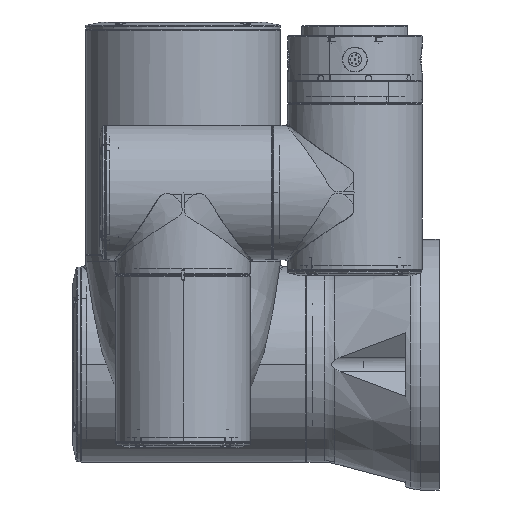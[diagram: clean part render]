
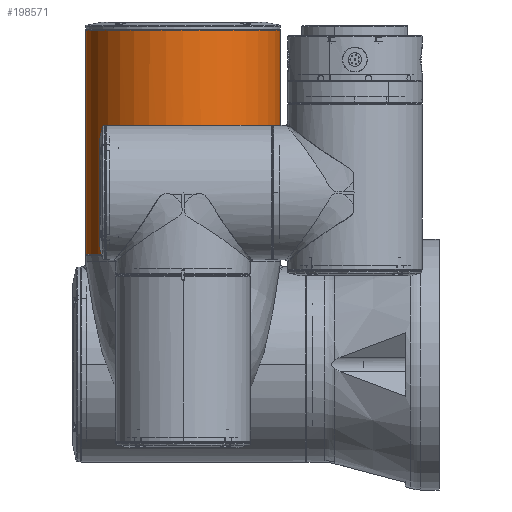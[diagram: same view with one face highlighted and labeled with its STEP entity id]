
A CAD part, left-side view. The second image highlights one B-rep face of the part: STEP entity #198571.
In plain terms, the highlighted cylindrical face has radius 58 mm (diameter 116 mm), a partial arc.
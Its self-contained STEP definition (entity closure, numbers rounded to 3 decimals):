
#4491 = DIRECTION ( 'NONE',  ( 0., 1., 0. ) ) ;
#4576 = EDGE_CURVE ( 'NONE', #153637, #17294, #12594, .T. ) ;
#6790 = EDGE_CURVE ( 'NONE', #77002, #78740, #55738, .T. ) ;
#8119 = DIRECTION ( 'NONE',  ( 0., 1., 0. ) ) ;
#8817 =( BOUNDED_CURVE ( )  B_SPLINE_CURVE ( 3, ( #193516, #102861, #54874, #54214 ),
 .UNSPECIFIED., .F., .F. ) 
 B_SPLINE_CURVE_WITH_KNOTS ( ( 4, 4 ),
 ( 1.555, 1.556 ),
 .UNSPECIFIED. ) 
 CURVE ( )  GEOMETRIC_REPRESENTATION_ITEM ( )  RATIONAL_B_SPLINE_CURVE ( ( 1., 1., 1., 1. ) ) 
 REPRESENTATION_ITEM ( '' )  );
#9315 = DIRECTION ( 'NONE',  ( 0., 0., -1. ) ) ;
#10057 = CARTESIAN_POINT ( 'NONE',  ( -425., 152., 65.503 ) ) ;
#12594 = CIRCLE ( 'NONE', #84206, 58. ) ;
#13148 = VERTEX_POINT ( 'NONE', #133588 ) ;
#13484 = VECTOR ( 'NONE', #9315, 1000. ) ;
#17294 = VERTEX_POINT ( 'NONE', #100269 ) ;
#17658 = CARTESIAN_POINT ( 'NONE',  ( -482.995, 152.75, 67.691 ) ) ;
#18465 = VECTOR ( 'NONE', #199246, 1000. ) ;
#18975 = CARTESIAN_POINT ( 'NONE',  ( -482.996, 152.69, 67.78 ) ) ;
#23517 = VERTEX_POINT ( 'NONE', #169638 ) ;
#24886 = DIRECTION ( 'NONE',  ( 0., 0., 1. ) ) ;
#25555 = DIRECTION ( 'NONE',  ( 0., 1., 0. ) ) ;
#28038 = CARTESIAN_POINT ( 'NONE',  ( -425., 210., 199. ) ) ;
#28160 = EDGE_CURVE ( 'NONE', #165917, #30991, #8817, .T. ) ;
#30991 = VERTEX_POINT ( 'NONE', #167510 ) ;
#33019 =( BOUNDED_CURVE ( )  B_SPLINE_CURVE ( 3, ( #85421, #134073, #196912, #182026 ),
 .UNSPECIFIED., .F., .F. ) 
 B_SPLINE_CURVE_WITH_KNOTS ( ( 4, 4 ),
 ( 4.727, 4.728 ),
 .UNSPECIFIED. ) 
 CURVE ( )  GEOMETRIC_REPRESENTATION_ITEM ( )  RATIONAL_B_SPLINE_CURVE ( ( 1., 1., 1., 1. ) ) 
 REPRESENTATION_ITEM ( '' )  );
#35208 = AXIS2_PLACEMENT_3D ( 'NONE', #106380, #105039, #45478 ) ;
#36280 = ORIENTED_EDGE ( 'NONE', *, *, #129819, .T. ) ;
#40734 = AXIS2_PLACEMENT_3D ( 'NONE', #10057, #24886, #25555 ) ;
#41785 = CARTESIAN_POINT ( 'NONE',  ( -482.993, 152.895, 65.503 ) ) ;
#45478 = DIRECTION ( 'NONE',  ( 0., 1., 0. ) ) ;
#47176 = VECTOR ( 'NONE', #163480, 1000. ) ;
#47928 = CARTESIAN_POINT ( 'NONE',  ( -482.998, 151.558, 67.994 ) ) ;
#49250 = CARTESIAN_POINT ( 'NONE',  ( -483., 151.873, 68.1 ) ) ;
#49476 = CARTESIAN_POINT ( 'NONE',  ( -483., 152.239, 68.1 ) ) ;
#50144 = CARTESIAN_POINT ( 'NONE',  ( -482.994, 152.839, 67.486 ) ) ;
#50803 = CARTESIAN_POINT ( 'NONE',  ( -482.994, 152.862, 67.38 ) ) ;
#51521 = CARTESIAN_POINT ( 'NONE',  ( -482.994, 151.136, 67.269 ) ) ;
#51767 = DIRECTION ( 'NONE',  ( 0., 0., 1. ) ) ;
#52979 = ORIENTED_EDGE ( 'NONE', *, *, #88678, .F. ) ;
#54214 = CARTESIAN_POINT ( 'NONE',  ( -482.994, 152.864, 67.269 ) ) ;
#54664 = LINE ( 'NONE', #76224, #13484 ) ;
#54874 = CARTESIAN_POINT ( 'NONE',  ( -482.993, 152.875, 66.68 ) ) ;
#55738 = CIRCLE ( 'NONE', #147905, 58. ) ;
#62668 = ORIENTED_EDGE ( 'NONE', *, *, #187290, .T. ) ;
#65382 = AXIS2_PLACEMENT_3D ( 'NONE', #179192, #69606, #8119 ) ;
#69606 = DIRECTION ( 'NONE',  ( 0., 0., -1. ) ) ;
#73395 = CARTESIAN_POINT ( 'NONE',  ( -482.993, 151.105, 65.503 ) ) ;
#76224 = CARTESIAN_POINT ( 'NONE',  ( -425., 94., 199. ) ) ;
#76843 = CARTESIAN_POINT ( 'NONE',  ( -425., 94., 199. ) ) ;
#77002 = VERTEX_POINT ( 'NONE', #199738 ) ;
#78531 = EDGE_CURVE ( 'NONE', #13148, #17294, #54664, .T. ) ;
#78580 = CARTESIAN_POINT ( 'NONE',  ( -483., 152.017, 68.1 ) ) ;
#78740 = VERTEX_POINT ( 'NONE', #166669 ) ;
#79822 = ORIENTED_EDGE ( 'NONE', *, *, #78531, .F. ) ;
#80218 = EDGE_CURVE ( 'NONE', #161932, #104250, #83452, .T. ) ;
#80348 = CARTESIAN_POINT ( 'NONE',  ( -482.995, 151.248, 67.689 ) ) ;
#83452 = CIRCLE ( 'NONE', #65382, 58. ) ;
#83729 = CARTESIAN_POINT ( 'NONE',  ( -425., 210., 199. ) ) ;
#84206 = AXIS2_PLACEMENT_3D ( 'NONE', #144449, #51767, #4491 ) ;
#85421 = CARTESIAN_POINT ( 'NONE',  ( -482.994, 151.136, 67.269 ) ) ;
#85609 = ORIENTED_EDGE ( 'NONE', *, *, #4576, .T. ) ;
#86036 = FACE_OUTER_BOUND ( 'NONE', #177239, .T. ) ;
#86438 = ORIENTED_EDGE ( 'NONE', *, *, #121990, .T. ) ;
#88678 = EDGE_CURVE ( 'NONE', #161932, #13148, #190273, .T. ) ;
#89538 = EDGE_CURVE ( 'NONE', #161406, #165917, #137864, .T. ) ;
#90308 = DIRECTION ( 'NONE',  ( 0., 0., -1. ) ) ;
#100269 = CARTESIAN_POINT ( 'NONE',  ( -425., 94., 65.503 ) ) ;
#102861 = CARTESIAN_POINT ( 'NONE',  ( -482.993, 152.885, 66.092 ) ) ;
#104250 = VERTEX_POINT ( 'NONE', #198092 ) ;
#104632 = B_SPLINE_CURVE_WITH_KNOTS ( 'NONE', 3,
 ( #156832, #49250, #157494, #47928, #127055, #110860, #80348, #109504, #188569, #155487 ),
 .UNSPECIFIED., .F., .F.,
 ( 4, 2, 2, 2, 4 ),
 ( 0., 0.25, 0.5, 0.75, 1. ),
 .UNSPECIFIED. ) ;
#105039 = DIRECTION ( 'NONE',  ( 0., 0., -1. ) ) ;
#106312 = VERTEX_POINT ( 'NONE', #51521 ) ;
#106380 = CARTESIAN_POINT ( 'NONE',  ( -425., 152., 199. ) ) ;
#109504 = CARTESIAN_POINT ( 'NONE',  ( -482.994, 151.161, 67.487 ) ) ;
#110860 = CARTESIAN_POINT ( 'NONE',  ( -482.996, 151.31, 67.78 ) ) ;
#115851 = LINE ( 'NONE', #28038, #130396 ) ;
#116530 = ORIENTED_EDGE ( 'NONE', *, *, #28160, .T. ) ;
#117262 = DIRECTION ( 'NONE',  ( 0., 0., 1. ) ) ;
#121536 = B_SPLINE_CURVE_WITH_KNOTS ( 'NONE', 3,
 ( #125928, #50803, #50144, #17658, #18975, #171250, #49476, #78580 ),
 .UNSPECIFIED., .F., .F.,
 ( 4, 2, 2, 4 ),
 ( 0., 0.25, 0.5, 1. ),
 .UNSPECIFIED. ) ;
#121990 = EDGE_CURVE ( 'NONE', #106312, #153637, #33019, .T. ) ;
#122172 = ORIENTED_EDGE ( 'NONE', *, *, #89538, .T. ) ;
#125928 = CARTESIAN_POINT ( 'NONE',  ( -482.994, 152.864, 67.269 ) ) ;
#127055 = CARTESIAN_POINT ( 'NONE',  ( -482.998, 151.468, 67.935 ) ) ;
#127878 = ORIENTED_EDGE ( 'NONE', *, *, #6790, .T. ) ;
#129819 = EDGE_CURVE ( 'NONE', #78740, #106312, #104632, .T. ) ;
#130396 = VECTOR ( 'NONE', #90308, 1000. ) ;
#132123 = EDGE_CURVE ( 'NONE', #30991, #77002, #121536, .T. ) ;
#133588 = CARTESIAN_POINT ( 'NONE',  ( -425., 94., 138. ) ) ;
#134073 = CARTESIAN_POINT ( 'NONE',  ( -482.993, 151.125, 66.68 ) ) ;
#137864 = CIRCLE ( 'NONE', #40734, 58. ) ;
#144449 = CARTESIAN_POINT ( 'NONE',  ( -425., 152., 65.503 ) ) ;
#147708 = CARTESIAN_POINT ( 'NONE',  ( -425., 152., 68.1 ) ) ;
#147905 = AXIS2_PLACEMENT_3D ( 'NONE', #147708, #117262, #149697 ) ;
#149697 = DIRECTION ( 'NONE',  ( 0., -1., 0. ) ) ;
#153637 = VERTEX_POINT ( 'NONE', #73395 ) ;
#155487 = CARTESIAN_POINT ( 'NONE',  ( -482.994, 151.136, 67.269 ) ) ;
#156832 = CARTESIAN_POINT ( 'NONE',  ( -483., 151.983, 68.1 ) ) ;
#157494 = CARTESIAN_POINT ( 'NONE',  ( -483., 151.765, 68.078 ) ) ;
#158601 = CYLINDRICAL_SURFACE ( 'NONE', #35208, 58. ) ;
#161202 = EDGE_CURVE ( 'NONE', #23517, #161406, #165500, .T. ) ;
#161406 = VERTEX_POINT ( 'NONE', #191243 ) ;
#161932 = VERTEX_POINT ( 'NONE', #174875 ) ;
#163480 = DIRECTION ( 'NONE',  ( 0., 0., -1. ) ) ;
#165500 = LINE ( 'NONE', #83729, #47176 ) ;
#165917 = VERTEX_POINT ( 'NONE', #41785 ) ;
#166669 = CARTESIAN_POINT ( 'NONE',  ( -483., 151.983, 68.1 ) ) ;
#167510 = CARTESIAN_POINT ( 'NONE',  ( -482.994, 152.864, 67.269 ) ) ;
#169638 = CARTESIAN_POINT ( 'NONE',  ( -425., 210., 138. ) ) ;
#171250 = CARTESIAN_POINT ( 'NONE',  ( -482.998, 152.452, 68.013 ) ) ;
#173120 = ORIENTED_EDGE ( 'NONE', *, *, #161202, .T. ) ;
#174875 = CARTESIAN_POINT ( 'NONE',  ( -425., 94., 198.497 ) ) ;
#177239 = EDGE_LOOP ( 'NONE', ( #52979, #197793, #62668, #173120, #122172, #116530, #185133, #127878, #36280, #86438, #85609, #79822 ) ) ;
#179192 = CARTESIAN_POINT ( 'NONE',  ( -425., 152., 198.497 ) ) ;
#182026 = CARTESIAN_POINT ( 'NONE',  ( -482.993, 151.105, 65.503 ) ) ;
#185133 = ORIENTED_EDGE ( 'NONE', *, *, #132123, .T. ) ;
#187290 = EDGE_CURVE ( 'NONE', #104250, #23517, #115851, .T. ) ;
#188569 = CARTESIAN_POINT ( 'NONE',  ( -482.994, 151.138, 67.381 ) ) ;
#190273 = LINE ( 'NONE', #76843, #18465 ) ;
#191243 = CARTESIAN_POINT ( 'NONE',  ( -425., 210., 65.503 ) ) ;
#193516 = CARTESIAN_POINT ( 'NONE',  ( -482.993, 152.895, 65.503 ) ) ;
#196912 = CARTESIAN_POINT ( 'NONE',  ( -482.993, 151.115, 66.092 ) ) ;
#197793 = ORIENTED_EDGE ( 'NONE', *, *, #80218, .T. ) ;
#198092 = CARTESIAN_POINT ( 'NONE',  ( -425., 210., 198.497 ) ) ;
#198571 = ADVANCED_FACE ( 'NONE', ( #86036 ), #158601, .T. ) ;
#199246 = DIRECTION ( 'NONE',  ( 0., 0., -1. ) ) ;
#199738 = CARTESIAN_POINT ( 'NONE',  ( -483., 152.017, 68.1 ) ) ;
